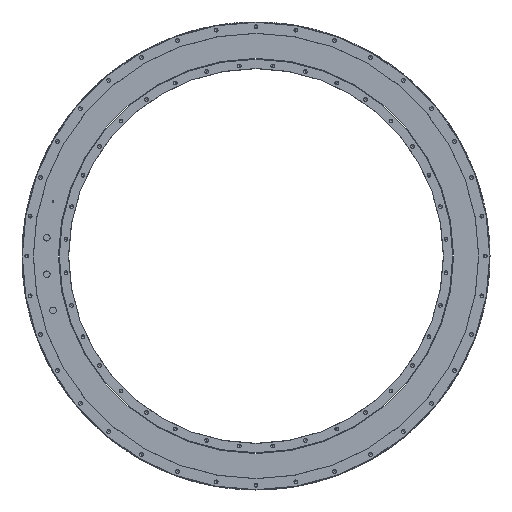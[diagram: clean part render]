
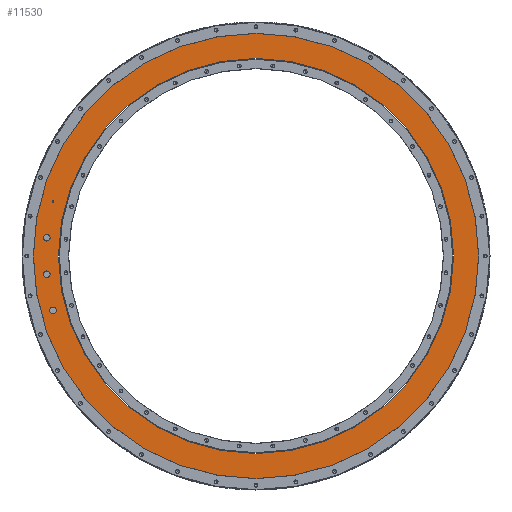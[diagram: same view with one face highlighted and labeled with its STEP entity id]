
A CAD part, left-side view. The second image highlights one B-rep face of the part: STEP entity #11530.
In plain terms, the highlighted planar face has unit normal (-1, 0, 0).
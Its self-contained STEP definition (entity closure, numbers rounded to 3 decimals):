
#11109=CARTESIAN_POINT('',(-125.,0.,0.));
#11110=DIRECTION('',(-1.,0.,0.));
#11111=DIRECTION('',(0.,1.,0.));
#11112=AXIS2_PLACEMENT_3D('',#11109,#11110,#11111);
#11114=CARTESIAN_POINT('',(-125.,0.,0.));
#11115=DIRECTION('',(1.,0.,0.));
#11116=DIRECTION('',(0.,1.,0.));
#11117=AXIS2_PLACEMENT_3D('',#11114,#11115,#11116);
#11119=CARTESIAN_POINT('',(-125.,0.,0.));
#11120=DIRECTION('',(-1.,0.,0.));
#11121=DIRECTION('',(0.,1.,0.));
#11122=AXIS2_PLACEMENT_3D('',#11119,#11120,#11121);
#11124=CARTESIAN_POINT('',(-125.,0.,0.));
#11125=DIRECTION('',(1.,0.,0.));
#11126=DIRECTION('',(0.,1.,0.));
#11127=AXIS2_PLACEMENT_3D('',#11124,#11125,#11126);
#11129=CARTESIAN_POINT('',(-125.,606.167,-162.422));
#11130=DIRECTION('',(-1.,0.,0.));
#11131=DIRECTION('',(0.,0.,1.));
#11132=AXIS2_PLACEMENT_3D('',#11129,#11130,#11131);
#11134=CARTESIAN_POINT('',(-125.,606.167,-162.422));
#11135=DIRECTION('',(-1.,0.,0.));
#11136=DIRECTION('',(0.,0.,-1.));
#11137=AXIS2_PLACEMENT_3D('',#11134,#11135,#11136);
#11139=CARTESIAN_POINT('',(-125.,606.167,162.422));
#11140=DIRECTION('',(-1.,0.,0.));
#11141=DIRECTION('',(0.,0.,1.));
#11142=AXIS2_PLACEMENT_3D('',#11139,#11140,#11141);
#11144=CARTESIAN_POINT('',(-125.,606.167,162.422));
#11145=DIRECTION('',(-1.,0.,0.));
#11146=DIRECTION('',(0.,0.,-1.));
#11147=AXIS2_PLACEMENT_3D('',#11144,#11145,#11146);
#11149=CARTESIAN_POINT('',(-125.,625.162,54.695));
#11150=DIRECTION('',(-1.,0.,0.));
#11151=DIRECTION('',(0.,0.,1.));
#11152=AXIS2_PLACEMENT_3D('',#11149,#11150,#11151);
#11154=CARTESIAN_POINT('',(-125.,625.162,54.695));
#11155=DIRECTION('',(-1.,0.,0.));
#11156=DIRECTION('',(0.,0.,-1.));
#11157=AXIS2_PLACEMENT_3D('',#11154,#11155,#11156);
#11159=CARTESIAN_POINT('',(-125.,625.162,-54.695));
#11160=DIRECTION('',(-1.,0.,0.));
#11161=DIRECTION('',(0.,0.,1.));
#11162=AXIS2_PLACEMENT_3D('',#11159,#11160,#11161);
#11164=CARTESIAN_POINT('',(-125.,625.162,-54.695));
#11165=DIRECTION('',(-1.,0.,0.));
#11166=DIRECTION('',(0.,0.,-1.));
#11167=AXIS2_PLACEMENT_3D('',#11164,#11165,#11166);
#11318=CARTESIAN_POINT('',(-125.,665.,0.));
#11320=VERTEX_POINT('',#11318);
#11321=CARTESIAN_POINT('',(-125.,590.1,0.));
#11323=VERTEX_POINT('',#11321);
#11338=CARTESIAN_POINT('',(-125.,-665.,0.));
#11340=VERTEX_POINT('',#11338);
#11341=CARTESIAN_POINT('',(-125.,-590.1,0.));
#11343=VERTEX_POINT('',#11341);
#11373=CARTESIAN_POINT('',(-125.,606.167,-152.422));
#11374=CARTESIAN_POINT('',(-125.,606.167,-172.422));
#11375=VERTEX_POINT('',#11373);
#11376=VERTEX_POINT('',#11374);
#11377=CARTESIAN_POINT('',(-125.,606.167,164.922));
#11378=CARTESIAN_POINT('',(-125.,606.167,159.922));
#11379=VERTEX_POINT('',#11377);
#11380=VERTEX_POINT('',#11378);
#11381=CARTESIAN_POINT('',(-125.,625.162,64.695));
#11382=CARTESIAN_POINT('',(-125.,625.162,44.695));
#11383=VERTEX_POINT('',#11381);
#11384=VERTEX_POINT('',#11382);
#11385=CARTESIAN_POINT('',(-125.,625.162,-44.695));
#11386=CARTESIAN_POINT('',(-125.,625.162,-64.695));
#11387=VERTEX_POINT('',#11385);
#11388=VERTEX_POINT('',#11386);
#11491=CARTESIAN_POINT('',(-125.,0.,0.));
#11492=DIRECTION('',(1.,0.,0.));
#11493=DIRECTION('',(0.,-1.,0.));
#11494=AXIS2_PLACEMENT_3D('',#11491,#11492,#11493);
#11495=PLANE('',#11494);
#11497=ORIENTED_EDGE('',*,*,#11496,.F.);
#11499=ORIENTED_EDGE('',*,*,#11498,.T.);
#11500=EDGE_LOOP('',(#11497,#11499));
#11501=FACE_OUTER_BOUND('',#11500,.F.);
#11502=ORIENTED_EDGE('',*,*,#11484,.F.);
#11503=ORIENTED_EDGE('',*,*,#11473,.T.);
#11504=EDGE_LOOP('',(#11502,#11503));
#11505=FACE_BOUND('',#11504,.F.);
#11507=ORIENTED_EDGE('',*,*,#11506,.T.);
#11509=ORIENTED_EDGE('',*,*,#11508,.T.);
#11510=EDGE_LOOP('',(#11507,#11509));
#11511=FACE_BOUND('',#11510,.F.);
#11513=ORIENTED_EDGE('',*,*,#11512,.T.);
#11515=ORIENTED_EDGE('',*,*,#11514,.T.);
#11516=EDGE_LOOP('',(#11513,#11515));
#11517=FACE_BOUND('',#11516,.F.);
#11519=ORIENTED_EDGE('',*,*,#11518,.T.);
#11521=ORIENTED_EDGE('',*,*,#11520,.T.);
#11522=EDGE_LOOP('',(#11519,#11521));
#11523=FACE_BOUND('',#11522,.F.);
#11525=ORIENTED_EDGE('',*,*,#11524,.T.);
#11527=ORIENTED_EDGE('',*,*,#11526,.T.);
#11528=EDGE_LOOP('',(#11525,#11527));
#11529=FACE_BOUND('',#11528,.F.);
#11530=ADVANCED_FACE('',(#11501,#11505,#11511,#11517,#11523,#11529),#11495,.F.);
#11113=CIRCLE('',#11112,590.1);
#11118=CIRCLE('',#11117,590.1);
#11123=CIRCLE('',#11122,665.);
#11128=CIRCLE('',#11127,665.);
#11133=CIRCLE('',#11132,10.);
#11138=CIRCLE('',#11137,10.);
#11143=CIRCLE('',#11142,2.5);
#11148=CIRCLE('',#11147,2.5);
#11153=CIRCLE('',#11152,10.);
#11158=CIRCLE('',#11157,10.);
#11163=CIRCLE('',#11162,10.);
#11168=CIRCLE('',#11167,10.);
#11473=EDGE_CURVE('',#11323,#11343,#11113,.T.);
#11484=EDGE_CURVE('',#11323,#11343,#11118,.T.);
#11496=EDGE_CURVE('',#11320,#11340,#11123,.T.);
#11498=EDGE_CURVE('',#11320,#11340,#11128,.T.);
#11506=EDGE_CURVE('',#11375,#11376,#11133,.T.);
#11508=EDGE_CURVE('',#11376,#11375,#11138,.T.);
#11512=EDGE_CURVE('',#11379,#11380,#11143,.T.);
#11514=EDGE_CURVE('',#11380,#11379,#11148,.T.);
#11518=EDGE_CURVE('',#11383,#11384,#11153,.T.);
#11520=EDGE_CURVE('',#11384,#11383,#11158,.T.);
#11524=EDGE_CURVE('',#11387,#11388,#11163,.T.);
#11526=EDGE_CURVE('',#11388,#11387,#11168,.T.);
